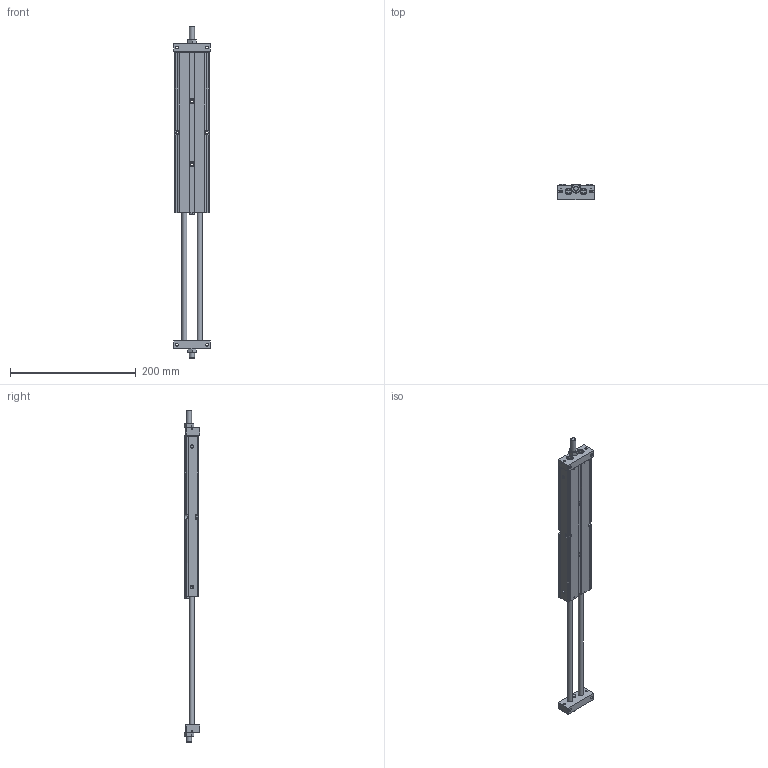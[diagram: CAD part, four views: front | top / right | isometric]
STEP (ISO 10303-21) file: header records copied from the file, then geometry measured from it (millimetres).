
FILE_DESCRIPTION((''),'2;1');
FILE_NAME('I:\3D電子目錄\氣缸\STU\STU\STU16\STU16x200.stp','2007-10-01T08:54:40',('Administrator'),(''),'Autodesk Inventor 11','Autodesk Inventor 11','');
FILE_SCHEMA(('AUTOMOTIVE_DESIGN { 1 0 10303 214 1 1 1 1 }'));
Length unit declared in the file: millimetre
Products named in the file (1): STU16
Bounding box: 58 x 24.51 x 527 mm (x, y, z)
Volume: 316371.5 mm3; surface area: 80016.2 mm2
Topology: 1 solids, 1 shells, 315 faces, 775 edges, 493 vertices
Faces by surface type: plane 161, cone 71, bspline 48, cylinder 35
Full cylindrical faces by diameter (mm): 2.459 x2, 8 x7, 8.5 x4, 9.5 x4, 18 x2, 19.2 x2
Entity records: 10033 total; most frequent: CARTESIAN_POINT 3278, ORIENTED_EDGE 1350, DIRECTION 1290, EDGE_CURVE 675, VERTEX_POINT 475, EDGE_LOOP 474, AXIS2_PLACEMENT_3D 473, VECTOR 344
